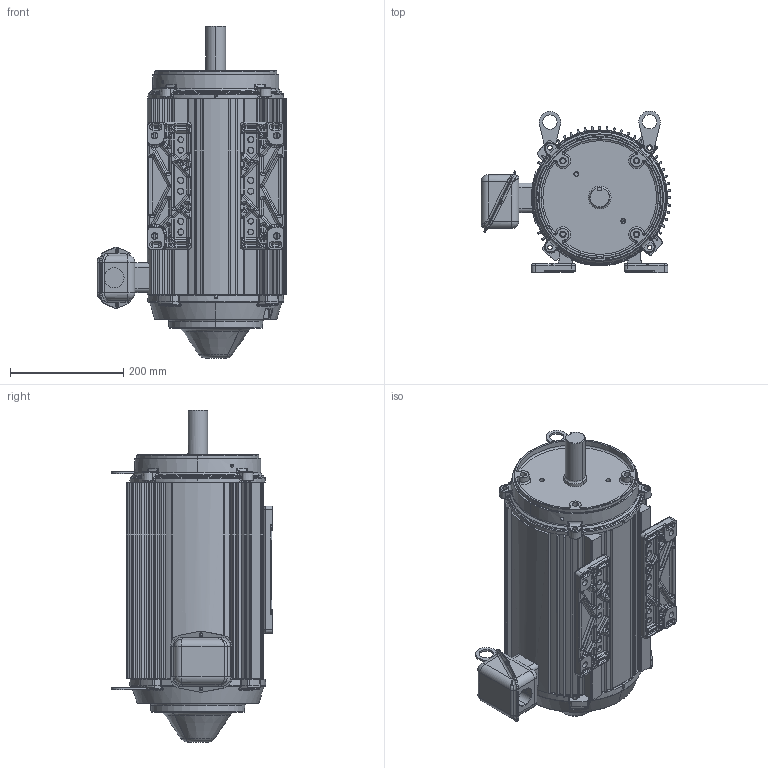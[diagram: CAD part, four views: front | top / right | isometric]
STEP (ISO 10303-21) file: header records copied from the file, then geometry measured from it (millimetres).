
FILE_DESCRIPTION((''),'2;1');
FILE_NAME('210_UNTX_ASM','2013-05-31T',('emd2341'),('Nidec Motor Corporation'),'PRO/ENGINEER BY PARAMETRIC TECHNOLOGY CORPORATION, 2010140','PRO/ENGINEER BY PARAMETRIC TECHNOLOGY CORPORATION, 2010140','');
FILE_SCHEMA(('CONFIG_CONTROL_DESIGN'));
Length unit declared in the file: inch
Products named in the file (16): 0624060_AF0; 0390920; 0390408; 0380744-BKT_AF0; 0298013_AF0; 0380745_ASM; 0345787; 0390417; 0628822-BKT_AF0; 0361252_AF0; 0628844_ASM; 0376890; 0622701; 0621184; 0361369; 210_UNTX_ASM
Assembly tree (17 placements, depth 3):
  210_UNTX_ASM
    0624060_AF0
    0390920
    0390408
    0380745_ASM
      0380744-BKT_AF0
      0298013_AF0
    0345787
    0390417
    0628844_ASM
      0628822-BKT_AF0
      0361252_AF0
    0376890  x2
    0622701
    0621184
    0361369  x2
Bounding box: 335.92 x 285.87 x 587.11 mm (x, y, z)
Volume: 4459021 mm3; surface area: 1513603.1 mm2
Topology: 17 solids, 17 shells, 3375 faces, 7967 edges, 4658 vertices
Faces by surface type: cylinder 1001, bspline 980, plane 643, torus 276, cone 267, sphere 184, extrusion 24
Entity records: 118994 total; most frequent: CARTESIAN_POINT 57260, ORIENTED_EDGE 13656, DIRECTION 11997, EDGE_CURVE 6828, AXIS2_PLACEMENT_3D 4941, VERTEX_POINT 4022, EDGE_LOOP 3026, CIRCLE 2889
